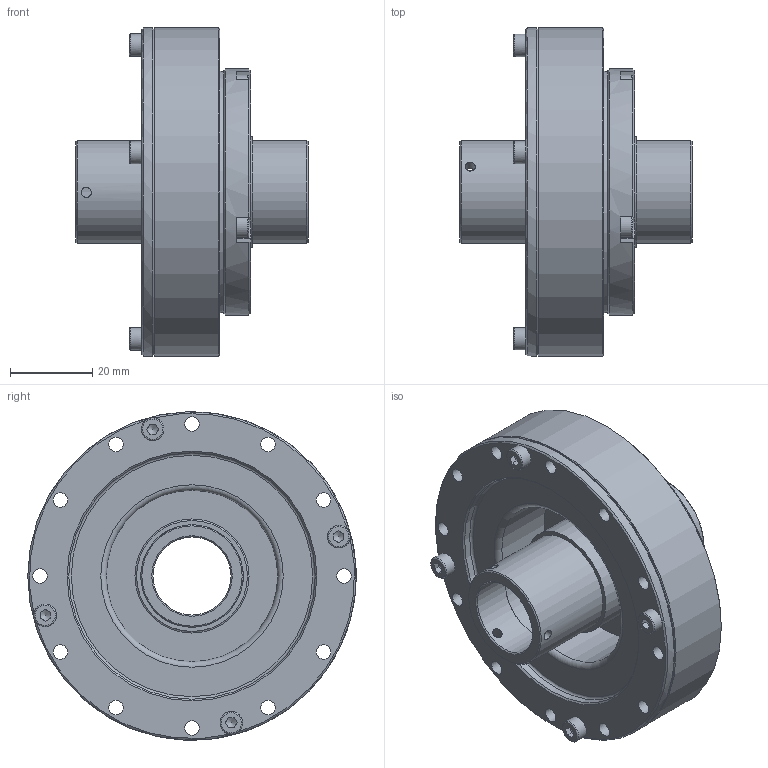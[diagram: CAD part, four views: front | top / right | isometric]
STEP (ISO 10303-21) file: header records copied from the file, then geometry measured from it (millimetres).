
FILE_DESCRIPTION(/* description */ (''),/* implementation_level */ '2;1');
FILE_NAME(/* name */ '\\Hiwin.tw\dfs\TB00F\研發課二組\\X2\6A5F5BC67D1A\X0\\97.同仁共享區 (機密級)\H11\\X2\6B236021\X0\\2023專案追蹤\2.型錄\\X2\6A21578B\X0\\官網3D檔(NEW)\DGH-PH\DGH-17-XX-PH.stp',/* time_stamp */ '2024-08-26T17:09:42+08:00',/* author */ ('hienya'),/* organization */ (''),/* preprocessor_version */ 'ST-DEVELOPER v15.2',/* originating_system */ 'Autodesk Inventor 2014',/* authorisation */ '');
FILE_SCHEMA (('AUTOMOTIVE_DESIGN { 1 0 10303 214 3 1 1 }'));
Length unit declared in the file: centimetre
Products named in the file (1): DGH-17-XX-PH
Bounding box: 56.5 x 80 x 80 mm (x, y, z)
Volume: 90544.5 mm3; surface area: 32345.2 mm2
Topology: 1 solids, 1 shells, 444 faces, 1151 edges, 743 vertices
Faces by surface type: cylinder 167, plane 150, torus 59, cone 45, sphere 23
Full cylindrical faces by diameter (mm): 2.459 x19, 3.5 x28, 5.5 x8, 19 x2, 19.5 x1, 25 x2, 27 x2, 32.46 x1, 39.66 x1, 41.72 x1, 41.728 x1, 59 x1, 60 x2, 80 x2
Entity records: 12615 total; most frequent: CARTESIAN_POINT 2806, DIRECTION 2190, ORIENTED_EDGE 1828, AXIS2_PLACEMENT_3D 985, EDGE_CURVE 891, EDGE_LOOP 658, VERTEX_POINT 631, CIRCLE 540
